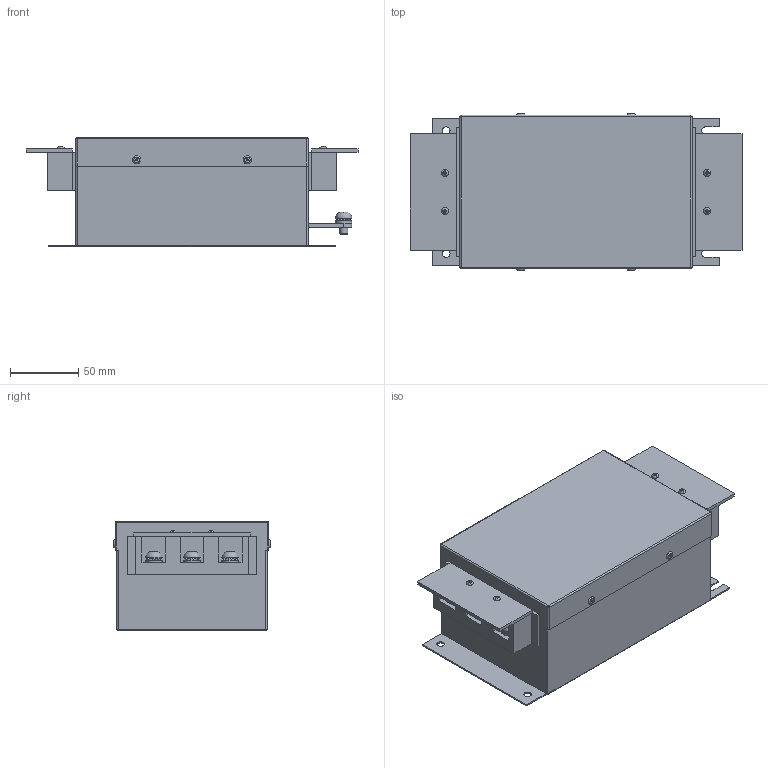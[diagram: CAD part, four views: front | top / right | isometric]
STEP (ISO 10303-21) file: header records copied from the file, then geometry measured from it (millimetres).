
FILE_DESCRIPTION(('STEP AP203'), '1');
FILE_NAME('Ñáîðêà _ IEF-37_76-4 íîâûé', '', ('UNSPECIFIED'), ('UNSPECIFIED'), 'ASCON STEP Converter 1.6', 'ASCON Math Kernel', '');
FILE_SCHEMA(('CONFIG_CONTROL_DESIGN'));
Length unit declared in the file: millimetre
Products named in the file (9): IEF-37_76-4 новый
Assembly tree (34 placements, depth 2):
  IEF-37_76-4 новый
    IEF-37_76-4 новый
    IEF-37_76-4 новый  x4
    IEF-37_76-4 новый  x7
    IEF-37_76-4 новый  x7
    IEF-37_76-4 новый  x7
    IEF-37_76-4 новый  x2
    IEF-37_76-4 новый  x2
    IEF-37_76-4 новый  x4
Bounding box: 243 x 114.5 x 80 mm (x, y, z)
Volume: 1591421.8 mm3; surface area: 139227.7 mm2
Topology: 34 solids, 34 shells, 869 faces, 2311 edges, 1523 vertices
Faces by surface type: plane 754, cylinder 85, torus 15, cone 11, sphere 4
Full cylindrical faces by diameter (mm): 1.5 x4, 2.8 x8, 3 x12, 5.6 x2, 6 x28, 10.5 x7, 12 x7
Entity records: 7771 total; most frequent: CARTESIAN_POINT 1578, DIRECTION 1078, ORIENTED_EDGE 1032, EDGE_CURVE 516, AXIS2_PLACEMENT_3D 367, VERTEX_POINT 354, LINE 344, VECTOR 344
